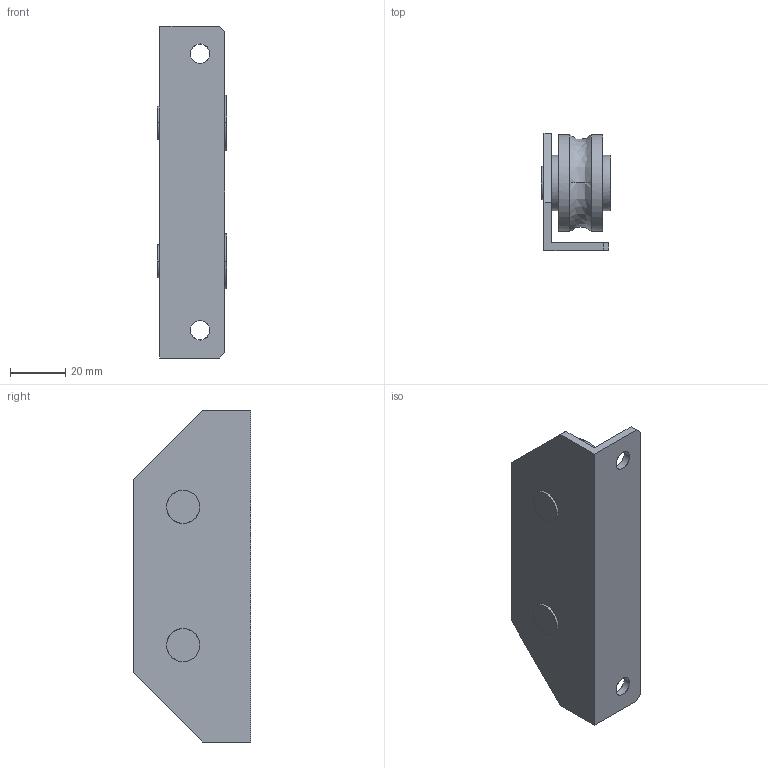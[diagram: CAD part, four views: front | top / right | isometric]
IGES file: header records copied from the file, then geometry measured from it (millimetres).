
Global section: file name: No Iges File Name specified; native system: AutoDesk Inventor R11.0; preprocessor: AutoDesk Inventor Iges Exporter R11.0; author: No Author specified; organization: No Organization specified; date: 20190511.104006; units: millimetre
Bounding box: 25.2 x 42.4 x 120 mm (x, y, z)
Surface area: 22985.5 mm2 (no closed solid volume)
Topology: 0 solids, 0 shells, 54 faces, 356 edges, 356 vertices
Faces by surface type: bspline 54
